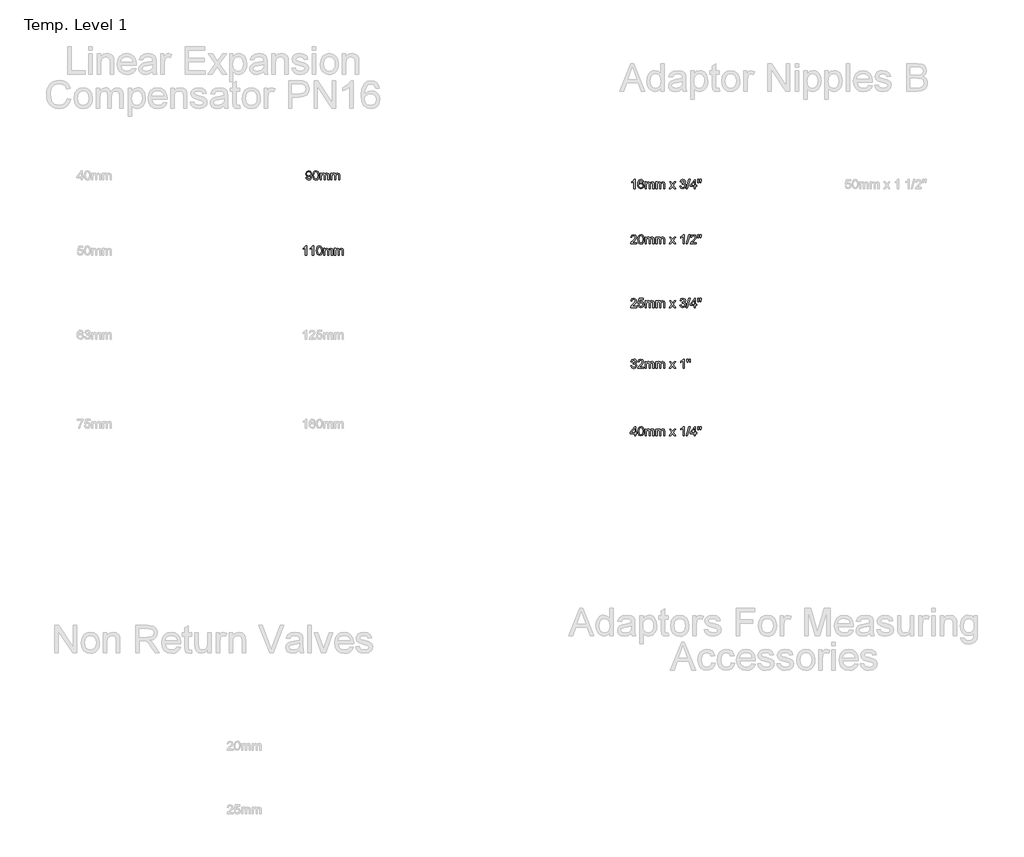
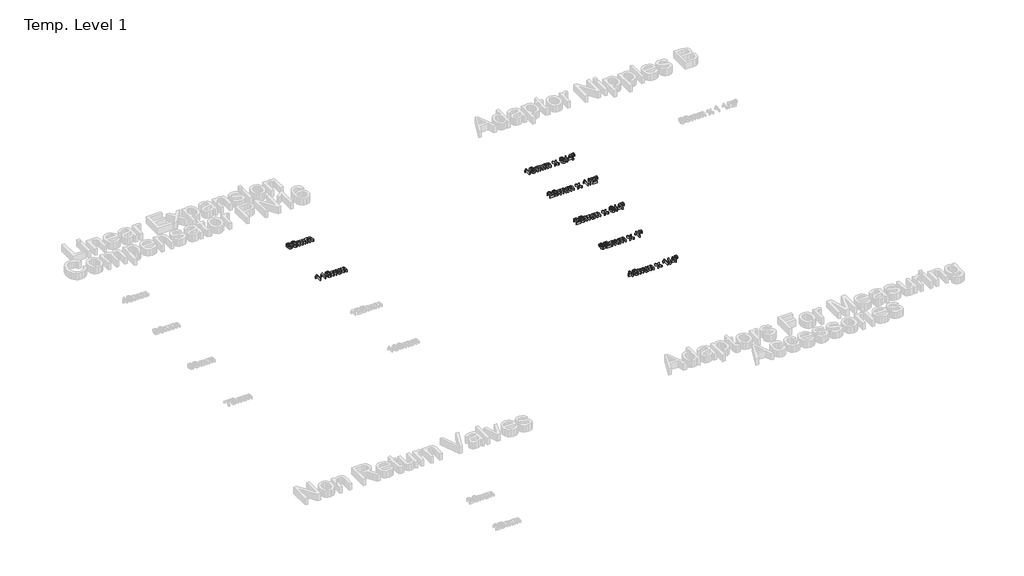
# One storey, part 58 of 62: 7 proxies.
"""IFC4 building model written with IfcOpenShell, lengths in millimetres."""

from ifc_helpers import new_model, si_unit, origin, origin_with_axes, place, context, project, spatial, polyline, outline, extrude, element, save

model = new_model("IFC4")

# Units and contexts
model_context = context("Model", 3, world=origin())
ifc_project = project(units=[si_unit("LENGTHUNIT", "METRE", prefix="MILLI")], contexts=[model_context])

# Site, building, storey
site = spatial("IfcSite", under=ifc_project)
building = spatial("IfcBuilding", under=site)
storey = spatial("IfcBuildingStorey", under=building, Name="Temp. Level 1", Elevation=0.0)

# Proxies
placement = place(None, origin())
element("IfcBuildingElementProxy", 1, Name="50mm Arial", ObjectType="50mm Arial", at=placement, inside=storey, context=model_context, shape_type="SweptSolid", body=[
    extrude(outline(polyline([(15916.0938247, 1468.2449204), (15922.2476708, 1469.0141512), (15925.0120939, 1463.1427569), (15930.2524785, 1461.3218435), (15935.2344497, 1462.4937185), (15938.6118535, 1465.6247281), (15940.6250747, 1470.9732858), (15941.5144977, 1478.1127089), (15936.5565651, 1474.6511704), (15929.807767, 1472.860305), (15919.5253151, 1477.235305), (15915.3245939, 1488.7617473), (15919.729642, 1500.6607858), (15930.7693054, 1505.1679973), (15939.5373343, 1502.5958819), (15945.5709881, 1495.2641512), (15947.6322862, 1481.4901127), (15945.5769977, 1466.5441992), (15939.4652189, 1458.0766512), (15929.964017, 1455.1679973), (15920.5048824, 1458.5994877), (15916.0938247, 1468.2449204)]), holes=[polyline([(15941.4784401, 1488.9059781), (15938.8221901, 1496.2857858), (15931.7669016, 1499.0141512), (15924.3630554, 1496.0754492), (15921.4784401, 1488.4612665), (15924.2068054, 1481.6403531), (15931.5986324, 1479.0141512), (15938.6959881, 1481.6403531), (15941.4784401, 1488.9059781)])]), origin_with_axes(), (0.0, 0.0, 1.0), 15.0),
    extrude(outline(polyline([(15953.0169016, 1480.1559781), (15954.8257958, 1494.3206415), (15960.198392, 1502.4877089), (15969.1707477, 1505.1679973), (15976.3582477, 1503.5814589), (15981.3221901, 1499.0081415), (15984.2068054, 1491.7244877), (15985.3245939, 1480.1559781), (15983.5337285, 1466.0514108), (15978.1791612, 1457.8663146), (15969.1707477, 1455.1679973), (15957.9207477, 1459.8554973), (15954.2428631, 1468.1818194), (15953.0169016, 1480.1559781)]), holes=[polyline([(15959.1707477, 1480.1679973), (15962.0553631, 1464.8855454), (15969.1707477, 1461.3218435), (15976.2861324, 1464.8975646), (15979.1707477, 1480.1679973), (15976.3822862, 1495.2761704), (15969.0986324, 1499.0141512), (15962.151517, 1495.7208819), (15959.1707477, 1480.1679973)])]), origin_with_axes(), (0.0, 0.0, 1.0), 15.0),
    extrude(outline(polyline([(15992.2476708, 1455.9372281), (15992.2476708, 1492.0910742), (15998.401517, 1492.0910742), (15998.401517, 1486.141555), (16002.6322862, 1491.0153531), (16008.6539208, 1492.860305), (16014.8197862, 1490.9792954), (16018.2092093, 1485.7088627), (16023.010892, 1491.0724444), (16029.0745939, 1492.860305), (16037.1214689, 1489.8855454), (16039.9399785, 1480.7208819), (16039.9399785, 1455.9372281), (16033.7861324, 1455.9372281), (16033.7861324, 1478.0766512), (16033.2152189, 1483.2148723), (16031.1479112, 1485.7449204), (16027.6322862, 1486.7064589), (16021.5806035, 1484.2425165), (16019.1707477, 1476.3458819), (16019.1707477, 1455.9372281), (16013.0169016, 1455.9372281), (16013.0169016, 1478.7617473), (16011.5926227, 1484.7232858), (16006.9231516, 1486.7064589), (16002.3678631, 1485.3843435), (15999.339017, 1481.5141512), (15998.401517, 1474.1704012), (15998.401517, 1455.9372281), (15992.2476708, 1455.9372281)])), origin_with_axes(), (0.0, 0.0, 1.0), 15.0),
    extrude(outline(polyline([(16049.1707477, 1455.9372281), (16049.1707477, 1492.0910742), (16055.3245939, 1492.0910742), (16055.3245939, 1486.141555), (16059.5553631, 1491.0153531), (16065.5769977, 1492.860305), (16071.7428631, 1490.9792954), (16075.1322862, 1485.7088627), (16079.9339689, 1491.0724444), (16085.9976708, 1492.860305), (16094.0445458, 1489.8855454), (16096.8630554, 1480.7208819), (16096.8630554, 1455.9372281), (16090.7092093, 1455.9372281), (16090.7092093, 1478.0766512), (16090.1382958, 1483.2148723), (16088.0709881, 1485.7449204), (16084.5553631, 1486.7064589), (16078.5036804, 1484.2425165), (16076.0938247, 1476.3458819), (16076.0938247, 1455.9372281), (16069.9399785, 1455.9372281), (16069.9399785, 1478.7617473), (16068.5156997, 1484.7232858), (16063.8462285, 1486.7064589), (16059.2909401, 1485.3843435), (16056.2620939, 1481.5141512), (16055.3245939, 1474.1704012), (16055.3245939, 1455.9372281), (16049.1707477, 1455.9372281)])), origin_with_axes(), (0.0, 0.0, 1.0), 15.0),
])
element("IfcBuildingElementProxy", 2, Name="50mm Arial", ObjectType="50mm Arial", at=placement, inside=storey, context=model_context, shape_type="SweptSolid", body=[
    extrude(outline(polyline([(15919.5553631, 1054.801483), (15913.401517, 1054.801483), (15913.401517, 1093.1668676), (15907.5721901, 1089.0142234), (15901.0938247, 1085.9072522), (15901.0938247, 1091.7245599), (15910.1142574, 1097.4817714), (15915.589017, 1104.0322522), (15919.5553631, 1104.0322522), (15919.5553631, 1054.801483)])), origin_with_axes(), (0.0, 0.0, 1.0), 15.0),
    extrude(outline(polyline([(15957.2476708, 1054.801483), (15951.0938247, 1054.801483), (15951.0938247, 1093.1668676), (15945.2644977, 1089.0142234), (15938.7861324, 1085.9072522), (15938.7861324, 1091.7245599), (15947.8065651, 1097.4817714), (15953.2813247, 1104.0322522), (15957.2476708, 1104.0322522), (15957.2476708, 1054.801483)])), origin_with_axes(), (0.0, 0.0, 1.0), 15.0),
    extrude(outline(polyline([(15971.8630554, 1079.020233), (15973.6719497, 1093.1848964), (15979.0445458, 1101.3519638), (15988.0169016, 1104.0322522), (15995.2044016, 1102.4457138), (16000.1683439, 1097.8723964), (16003.0529593, 1090.5887426), (16004.1707477, 1079.020233), (16002.3798824, 1064.9156657), (15997.0253151, 1056.7305695), (15988.0169016, 1054.0322522), (15976.7669016, 1058.7197522), (15973.089017, 1067.0460743), (15971.8630554, 1079.020233)]), holes=[polyline([(15978.0169016, 1079.0322522), (15980.901517, 1063.7498003), (15988.0169016, 1060.1860984), (15995.1322862, 1063.7618195), (15998.0169016, 1079.0322522), (15995.2284401, 1094.1404253), (15987.9447862, 1097.8784061), (15980.9976708, 1094.5851368), (15978.0169016, 1079.0322522)])]), origin_with_axes(), (0.0, 0.0, 1.0), 15.0),
    extrude(outline(polyline([(16011.0938247, 1054.801483), (16011.0938247, 1090.9553291), (16017.2476708, 1090.9553291), (16017.2476708, 1085.0058099), (16021.4784401, 1089.879608), (16027.5000747, 1091.7245599), (16033.6659401, 1089.8435503), (16037.0553631, 1084.5731176), (16041.8570458, 1089.9366993), (16047.9207477, 1091.7245599), (16055.9676227, 1088.7498003), (16058.7861324, 1079.5851368), (16058.7861324, 1054.801483), (16052.6322862, 1054.801483), (16052.6322862, 1076.9409061), (16052.0613727, 1082.0791272), (16049.9940651, 1084.6091753), (16046.4784401, 1085.5707138), (16040.4267574, 1083.1067714), (16038.0169016, 1075.2101368), (16038.0169016, 1054.801483), (16031.8630554, 1054.801483), (16031.8630554, 1077.6260022), (16030.4387766, 1083.5875407), (16025.7693054, 1085.5707138), (16021.214017, 1084.2485984), (16018.1851708, 1080.3784061), (16017.2476708, 1073.0346561), (16017.2476708, 1054.801483), (16011.0938247, 1054.801483)])), origin_with_axes(), (0.0, 0.0, 1.0), 15.0),
    extrude(outline(polyline([(16068.0169016, 1054.801483), (16068.0169016, 1090.9553291), (16074.1707477, 1090.9553291), (16074.1707477, 1085.0058099), (16078.401517, 1089.879608), (16084.4231516, 1091.7245599), (16090.589017, 1089.8435503), (16093.9784401, 1084.5731176), (16098.7801227, 1089.9366993), (16104.8438247, 1091.7245599), (16112.8906997, 1088.7498003), (16115.7092093, 1079.5851368), (16115.7092093, 1054.801483), (16109.5553631, 1054.801483), (16109.5553631, 1076.9409061), (16108.9844497, 1082.0791272), (16106.917142, 1084.6091753), (16103.401517, 1085.5707138), (16097.3498343, 1083.1067714), (16094.9399785, 1075.2101368), (16094.9399785, 1054.801483), (16088.7861324, 1054.801483), (16088.7861324, 1077.6260022), (16087.3618535, 1083.5875407), (16082.6923824, 1085.5707138), (16078.1370939, 1084.2485984), (16075.1082477, 1080.3784061), (16074.1707477, 1073.0346561), (16074.1707477, 1054.801483), (16068.0169016, 1054.801483)])), origin_with_axes(), (0.0, 0.0, 1.0), 15.0),
])
element("IfcBuildingElementProxy", 3, Name="50mm Arial", ObjectType="50mm Arial", at=placement, inside=storey, context=model_context, shape_type="SweptSolid", body=[
    extrude(outline(polyline([(17674.252074, 1409.801483), (17668.0982278, 1409.801483), (17668.0982278, 1448.1668676), (17662.2689009, 1444.0142234), (17655.7905355, 1440.9072522), (17655.7905355, 1446.7245599), (17664.8109682, 1452.4817714), (17670.2857278, 1459.0322522), (17674.252074, 1459.0322522), (17674.252074, 1409.801483)])), origin_with_axes(), (0.0, 0.0, 1.0), 15.0),
    extrude(outline(polyline([(17720.4059201, 1445.9553291), (17714.252074, 1445.1860984), (17711.9203432, 1450.3183099), (17705.7544778, 1452.8784061), (17700.2015932, 1451.3880214), (17696.0008721, 1445.7930695), (17694.252074, 1434.8255214), (17699.6787567, 1439.7353772), (17706.4035163, 1441.3399445), (17716.8602471, 1436.9529253), (17721.1751509, 1425.6187907), (17719.1439009, 1417.1272041), (17713.5549586, 1411.1175888), (17705.4900547, 1409.0322522), (17692.9479874, 1414.5610984), (17689.3106677, 1421.8808099), (17688.0982278, 1432.7822522), (17689.4443817, 1445.0388628), (17693.4828432, 1453.4192714), (17698.9966653, 1457.629007), (17706.1390932, 1459.0322522), (17715.8626509, 1455.5586945), (17720.4059201, 1445.9553291)]), holes=[polyline([(17694.252074, 1425.7149445), (17695.6763528, 1420.3844157), (17699.4624105, 1416.5142234), (17705.0092855, 1415.1860984), (17712.2628913, 1417.9385022), (17715.0213047, 1425.4144638), (17712.298949, 1432.5719157), (17704.7568817, 1435.1860984), (17697.3109682, 1432.5719157), (17694.252074, 1425.7149445)])]), origin_with_axes(), (0.0, 0.0, 1.0), 15.0),
    extrude(outline(polyline([(17728.0982278, 1409.801483), (17728.0982278, 1445.9553291), (17734.252074, 1445.9553291), (17734.252074, 1440.0058099), (17738.4828432, 1444.879608), (17744.5044778, 1446.7245599), (17750.6703432, 1444.8435503), (17754.0597663, 1439.5731176), (17758.861449, 1444.9366993), (17764.9251509, 1446.7245599), (17772.9720259, 1443.7498003), (17775.7905355, 1434.5851368), (17775.7905355, 1409.801483), (17769.6366894, 1409.801483), (17769.6366894, 1431.9409061), (17769.0657759, 1437.0791272), (17766.9984682, 1439.6091753), (17763.4828432, 1440.5707138), (17757.4311605, 1438.1067714), (17755.0213047, 1430.2101368), (17755.0213047, 1409.801483), (17748.8674586, 1409.801483), (17748.8674586, 1432.6260022), (17747.4431797, 1438.5875407), (17742.7737086, 1440.5707138), (17738.2184201, 1439.2485984), (17735.189574, 1435.3784061), (17734.252074, 1428.0346561), (17734.252074, 1409.801483), (17728.0982278, 1409.801483)])), origin_with_axes(), (0.0, 0.0, 1.0), 15.0),
    extrude(outline(polyline([(17785.0213047, 1409.801483), (17785.0213047, 1445.9553291), (17791.1751509, 1445.9553291), (17791.1751509, 1440.0058099), (17795.4059201, 1444.879608), (17801.4275547, 1446.7245599), (17807.5934201, 1444.8435503), (17810.9828432, 1439.5731176), (17815.7845259, 1444.9366993), (17821.8482278, 1446.7245599), (17829.8951028, 1443.7498003), (17832.7136124, 1434.5851368), (17832.7136124, 1409.801483), (17826.5597663, 1409.801483), (17826.5597663, 1431.9409061), (17825.9888528, 1437.0791272), (17823.9215451, 1439.6091753), (17820.4059201, 1440.5707138), (17814.3542374, 1438.1067714), (17811.9443817, 1430.2101368), (17811.9443817, 1409.801483), (17805.7905355, 1409.801483), (17805.7905355, 1432.6260022), (17804.3662567, 1438.5875407), (17799.6967855, 1440.5707138), (17795.1414971, 1439.2485984), (17792.1126509, 1435.3784061), (17791.1751509, 1428.0346561), (17791.1751509, 1409.801483), (17785.0213047, 1409.801483)])), origin_with_axes(), (0.0, 0.0, 1.0), 15.0),
    extrude(outline(polyline([(17857.3289971, 1409.801483), (17870.4780355, 1427.9745599), (17858.0982278, 1445.9553291), (17865.502074, 1445.9553291), (17871.4756317, 1437.301483), (17874.2640932, 1433.2149445), (17876.6799586, 1436.5562907), (17883.4828432, 1445.9553291), (17890.8866894, 1445.9553291), (17877.8818817, 1427.9745599), (17890.4059201, 1409.801483), (17883.002074, 1409.801483), (17875.4660163, 1420.7269638), (17874.0838047, 1422.7221561), (17864.7328432, 1409.801483), (17857.3289971, 1409.801483)])), origin_with_axes(), (0.0, 0.0, 1.0), 15.0),
    extrude(outline(polyline([(17913.4828432, 1422.8784061), (17919.6366894, 1423.6476368), (17923.0321221, 1417.1692714), (17929.3842855, 1415.1860984), (17936.8602471, 1417.9144638), (17939.6366894, 1424.6692714), (17936.8842855, 1431.0334541), (17929.8890932, 1433.551483), (17925.5741894, 1432.8784061), (17926.2592855, 1439.0322522), (17934.2280355, 1440.7269638), (17937.3289971, 1446.1596561), (17935.0814009, 1450.973358), (17929.2881317, 1452.8784061), (17923.4227471, 1450.9553291), (17920.4059201, 1445.1860984), (17914.252074, 1445.9553291), (17919.2881317, 1455.6067714), (17929.0717855, 1459.0322522), (17936.4936605, 1457.3435503), (17941.6859682, 1452.7281657), (17943.4828432, 1446.520233), (17941.7761124, 1440.8471561), (17936.7280355, 1436.7726368), (17943.4347663, 1432.5659061), (17945.7905355, 1424.5610984), (17941.0789971, 1413.551483), (17929.1679394, 1409.0322522), (17918.3746701, 1412.8904253), (17913.4828432, 1422.8784061)])), origin_with_axes(), (0.0, 0.0, 1.0), 15.0),
    extrude(outline(polyline([(17948.0982278, 1409.801483), (17961.9443817, 1459.0322522), (17967.4972663, 1459.0322522), (17953.6511124, 1409.801483), (17948.0982278, 1409.801483)])), origin_with_axes(), (0.0, 0.0, 1.0), 15.0),
    extrude(outline(polyline([(17990.4059201, 1409.801483), (17990.4059201, 1421.3399445), (17968.0982278, 1421.3399445), (17968.0982278, 1427.4937907), (17991.9443817, 1458.2630214), (17996.5597663, 1458.2630214), (17996.5597663, 1427.4937907), (18002.7136124, 1427.4937907), (18002.7136124, 1421.3399445), (17996.5597663, 1421.3399445), (17996.5597663, 1409.801483), (17990.4059201, 1409.801483)]), holes=[polyline([(17990.4059201, 1427.4937907), (17990.4059201, 1446.5082138), (17975.6703432, 1427.4937907), (17990.4059201, 1427.4937907)])]), origin_with_axes(), (0.0, 0.0, 1.0), 15.0),
    extrude(outline(polyline([(18021.8722663, 1441.3399445), (18020.4059201, 1450.8471561), (18020.4059201, 1459.0322522), (18026.5597663, 1459.0322522), (18026.5597663, 1450.8471561), (18025.1174586, 1441.3399445), (18021.8722663, 1441.3399445)])), origin_with_axes(), (0.0, 0.0, 1.0), 15.0),
    extrude(outline(polyline([(18009.6006317, 1441.3399445), (18008.0982278, 1450.8471561), (18008.0982278, 1459.0322522), (18014.252074, 1459.0322522), (18014.252074, 1450.8471561), (18012.9059201, 1441.3399445), (18009.6006317, 1441.3399445)])), origin_with_axes(), (0.0, 0.0, 1.0), 15.0),
])
element("IfcBuildingElementProxy", 4, Name="50mm Arial", ObjectType="50mm Arial", at=placement, inside=storey, context=model_context, shape_type="SweptSolid", body=[
    extrude(outline(polyline([(17682.7136124, 1120.9553291), (17682.7136124, 1114.801483), (17650.4059201, 1114.801483), (17651.0669778, 1119.0442714), (17654.8049586, 1125.5767234), (17662.5092855, 1132.7101368), (17673.1342855, 1142.9625407), (17675.7905355, 1149.9336945), (17673.2845259, 1155.5767234), (17666.7400547, 1157.8784061), (17659.9191413, 1155.6308099), (17657.3289971, 1149.4168676), (17651.1751509, 1150.1860984), (17655.892699, 1160.4865791), (17666.8722663, 1164.0322522), (17677.8878913, 1160.0899445), (17681.9443817, 1150.3062907), (17680.8506317, 1144.4709541), (17677.2148144, 1138.4373003), (17668.3987086, 1130.0058099), (17661.3193817, 1124.0863388), (17658.5429394, 1120.9553291), (17682.7136124, 1120.9553291)])), origin_with_axes(), (0.0, 0.0, 1.0), 15.0),
    extrude(outline(polyline([(17688.8674586, 1139.020233), (17690.6763528, 1153.1848964), (17696.048949, 1161.3519638), (17705.0213047, 1164.0322522), (17712.2088047, 1162.4457138), (17717.1727471, 1157.8723964), (17720.0573624, 1150.5887426), (17721.1751509, 1139.020233), (17719.3842855, 1124.9156657), (17714.0297182, 1116.7305695), (17705.0213047, 1114.0322522), (17693.7713047, 1118.7197522), (17690.0934201, 1127.0460743), (17688.8674586, 1139.020233)]), holes=[polyline([(17695.0213047, 1139.0322522), (17697.9059201, 1123.7498003), (17705.0213047, 1120.1860984), (17712.1366894, 1123.7618195), (17715.0213047, 1139.0322522), (17712.2328432, 1154.1404253), (17704.9491894, 1157.8784061), (17698.002074, 1154.5851368), (17695.0213047, 1139.0322522)])]), origin_with_axes(), (0.0, 0.0, 1.0), 15.0),
    extrude(outline(polyline([(17728.0982278, 1114.801483), (17728.0982278, 1150.9553291), (17734.252074, 1150.9553291), (17734.252074, 1145.0058099), (17738.4828432, 1149.879608), (17744.5044778, 1151.7245599), (17750.6703432, 1149.8435503), (17754.0597663, 1144.5731176), (17758.861449, 1149.9366993), (17764.9251509, 1151.7245599), (17772.9720259, 1148.7498003), (17775.7905355, 1139.5851368), (17775.7905355, 1114.801483), (17769.6366894, 1114.801483), (17769.6366894, 1136.9409061), (17769.0657759, 1142.0791272), (17766.9984682, 1144.6091753), (17763.4828432, 1145.5707138), (17757.4311605, 1143.1067714), (17755.0213047, 1135.2101368), (17755.0213047, 1114.801483), (17748.8674586, 1114.801483), (17748.8674586, 1137.6260022), (17747.4431797, 1143.5875407), (17742.7737086, 1145.5707138), (17738.2184201, 1144.2485984), (17735.189574, 1140.3784061), (17734.252074, 1133.0346561), (17734.252074, 1114.801483), (17728.0982278, 1114.801483)])), origin_with_axes(), (0.0, 0.0, 1.0), 15.0),
    extrude(outline(polyline([(17785.0213047, 1114.801483), (17785.0213047, 1150.9553291), (17791.1751509, 1150.9553291), (17791.1751509, 1145.0058099), (17795.4059201, 1149.879608), (17801.4275547, 1151.7245599), (17807.5934201, 1149.8435503), (17810.9828432, 1144.5731176), (17815.7845259, 1149.9366993), (17821.8482278, 1151.7245599), (17829.8951028, 1148.7498003), (17832.7136124, 1139.5851368), (17832.7136124, 1114.801483), (17826.5597663, 1114.801483), (17826.5597663, 1136.9409061), (17825.9888528, 1142.0791272), (17823.9215451, 1144.6091753), (17820.4059201, 1145.5707138), (17814.3542374, 1143.1067714), (17811.9443817, 1135.2101368), (17811.9443817, 1114.801483), (17805.7905355, 1114.801483), (17805.7905355, 1137.6260022), (17804.3662567, 1143.5875407), (17799.6967855, 1145.5707138), (17795.1414971, 1144.2485984), (17792.1126509, 1140.3784061), (17791.1751509, 1133.0346561), (17791.1751509, 1114.801483), (17785.0213047, 1114.801483)])), origin_with_axes(), (0.0, 0.0, 1.0), 15.0),
    extrude(outline(polyline([(17857.3289971, 1114.801483), (17870.4780355, 1132.9745599), (17858.0982278, 1150.9553291), (17865.502074, 1150.9553291), (17871.4756317, 1142.301483), (17874.2640932, 1138.2149445), (17876.6799586, 1141.5562907), (17883.4828432, 1150.9553291), (17890.8866894, 1150.9553291), (17877.8818817, 1132.9745599), (17890.4059201, 1114.801483), (17883.002074, 1114.801483), (17875.4660163, 1125.7269638), (17874.0838047, 1127.7221561), (17864.7328432, 1114.801483), (17857.3289971, 1114.801483)])), origin_with_axes(), (0.0, 0.0, 1.0), 15.0),
    extrude(outline(polyline([(17936.5597663, 1114.801483), (17930.4059201, 1114.801483), (17930.4059201, 1153.1668676), (17924.5765932, 1149.0142234), (17918.0982278, 1145.9072522), (17918.0982278, 1151.7245599), (17927.1186605, 1157.4817714), (17932.5934201, 1164.0322522), (17936.5597663, 1164.0322522), (17936.5597663, 1114.801483)])), origin_with_axes(), (0.0, 0.0, 1.0), 15.0),
    extrude(outline(polyline([(17948.0982278, 1114.801483), (17961.9443817, 1164.0322522), (17967.4972663, 1164.0322522), (17953.6511124, 1114.801483), (17948.0982278, 1114.801483)])), origin_with_axes(), (0.0, 0.0, 1.0), 15.0),
    extrude(outline(polyline([(18001.9443817, 1120.9553291), (18001.9443817, 1114.801483), (17969.6366894, 1114.801483), (17970.2977471, 1119.0442714), (17974.0357278, 1125.5767234), (17981.7400547, 1132.7101368), (17992.3650547, 1142.9625407), (17995.0213047, 1149.9336945), (17992.5152951, 1155.5767234), (17985.970824, 1157.8784061), (17979.1499105, 1155.6308099), (17976.5597663, 1149.4168676), (17970.4059201, 1150.1860984), (17975.1234682, 1160.4865791), (17986.1030355, 1164.0322522), (17997.1186605, 1160.0899445), (18001.1751509, 1150.3062907), (18000.0814009, 1144.4709541), (17996.4455836, 1138.4373003), (17987.6294778, 1130.0058099), (17980.5501509, 1124.0863388), (17977.7737086, 1120.9553291), (18001.9443817, 1120.9553291)])), origin_with_axes(), (0.0, 0.0, 1.0), 15.0),
    extrude(outline(polyline([(18021.8722663, 1146.3399445), (18020.4059201, 1155.8471561), (18020.4059201, 1164.0322522), (18026.5597663, 1164.0322522), (18026.5597663, 1155.8471561), (18025.1174586, 1146.3399445), (18021.8722663, 1146.3399445)])), origin_with_axes(), (0.0, 0.0, 1.0), 15.0),
    extrude(outline(polyline([(18009.6006317, 1146.3399445), (18008.0982278, 1155.8471561), (18008.0982278, 1164.0322522), (18014.252074, 1164.0322522), (18014.252074, 1155.8471561), (18012.9059201, 1146.3399445), (18009.6006317, 1146.3399445)])), origin_with_axes(), (0.0, 0.0, 1.0), 15.0),
])
element("IfcBuildingElementProxy", 5, Name="50mm Arial", ObjectType="50mm Arial", at=placement, inside=storey, context=model_context, shape_type="SweptSolid", body=[
    extrude(outline(polyline([(17682.7136124, 780.9553291), (17682.7136124, 774.801483), (17650.4059201, 774.801483), (17651.0669778, 779.0442714), (17654.8049586, 785.5767234), (17662.5092855, 792.7101368), (17673.1342855, 802.9625407), (17675.7905355, 809.9336945), (17673.2845259, 815.5767234), (17666.7400547, 817.8784061), (17659.9191413, 815.6308099), (17657.3289971, 809.4168676), (17651.1751509, 810.1860984), (17655.892699, 820.4865791), (17666.8722663, 824.0322522), (17677.8878913, 820.0899445), (17681.9443817, 810.3062907), (17680.8506317, 804.4709541), (17677.2148144, 798.4373003), (17668.3987086, 790.0058099), (17661.3193817, 784.0863388), (17658.5429394, 780.9553291), (17682.7136124, 780.9553291)])), origin_with_axes(), (0.0, 0.0, 1.0), 15.0),
    extrude(outline(polyline([(17688.8674586, 787.8784061), (17695.0213047, 788.6476368), (17698.1222663, 782.3074926), (17704.5525547, 780.1860984), (17712.2689009, 783.1368195), (17715.0213047, 790.9673484), (17712.4431797, 798.2750407), (17704.6487086, 800.9553291), (17699.2460644, 799.8856176), (17695.7905355, 797.1091753), (17689.6366894, 797.8784061), (17695.0213047, 823.2630214), (17718.8674586, 823.2630214), (17718.8674586, 817.1091753), (17699.9972663, 817.1091753), (17697.3650547, 803.551483), (17706.3674586, 807.1091753), (17716.8902951, 802.6981176), (17721.1751509, 791.3519638), (17717.3169778, 779.9336945), (17711.7761124, 775.5076128), (17704.5285163, 774.0322522), (17693.6691413, 777.8243195), (17688.8674586, 787.8784061)])), origin_with_axes(), (0.0, 0.0, 1.0), 15.0),
    extrude(outline(polyline([(17728.0982278, 774.801483), (17728.0982278, 810.9553291), (17734.252074, 810.9553291), (17734.252074, 805.0058099), (17738.4828432, 809.879608), (17744.5044778, 811.7245599), (17750.6703432, 809.8435503), (17754.0597663, 804.5731176), (17758.861449, 809.9366993), (17764.9251509, 811.7245599), (17772.9720259, 808.7498003), (17775.7905355, 799.5851368), (17775.7905355, 774.801483), (17769.6366894, 774.801483), (17769.6366894, 796.9409061), (17769.0657759, 802.0791272), (17766.9984682, 804.6091753), (17763.4828432, 805.5707138), (17757.4311605, 803.1067714), (17755.0213047, 795.2101368), (17755.0213047, 774.801483), (17748.8674586, 774.801483), (17748.8674586, 797.6260022), (17747.4431797, 803.5875407), (17742.7737086, 805.5707138), (17738.2184201, 804.2485984), (17735.189574, 800.3784061), (17734.252074, 793.0346561), (17734.252074, 774.801483), (17728.0982278, 774.801483)])), origin_with_axes(), (0.0, 0.0, 1.0), 15.0),
    extrude(outline(polyline([(17785.0213047, 774.801483), (17785.0213047, 810.9553291), (17791.1751509, 810.9553291), (17791.1751509, 805.0058099), (17795.4059201, 809.879608), (17801.4275547, 811.7245599), (17807.5934201, 809.8435503), (17810.9828432, 804.5731176), (17815.7845259, 809.9366993), (17821.8482278, 811.7245599), (17829.8951028, 808.7498003), (17832.7136124, 799.5851368), (17832.7136124, 774.801483), (17826.5597663, 774.801483), (17826.5597663, 796.9409061), (17825.9888528, 802.0791272), (17823.9215451, 804.6091753), (17820.4059201, 805.5707138), (17814.3542374, 803.1067714), (17811.9443817, 795.2101368), (17811.9443817, 774.801483), (17805.7905355, 774.801483), (17805.7905355, 797.6260022), (17804.3662567, 803.5875407), (17799.6967855, 805.5707138), (17795.1414971, 804.2485984), (17792.1126509, 800.3784061), (17791.1751509, 793.0346561), (17791.1751509, 774.801483), (17785.0213047, 774.801483)])), origin_with_axes(), (0.0, 0.0, 1.0), 15.0),
    extrude(outline(polyline([(17857.3289971, 774.801483), (17870.4780355, 792.9745599), (17858.0982278, 810.9553291), (17865.502074, 810.9553291), (17871.4756317, 802.301483), (17874.2640932, 798.2149445), (17876.6799586, 801.5562907), (17883.4828432, 810.9553291), (17890.8866894, 810.9553291), (17877.8818817, 792.9745599), (17890.4059201, 774.801483), (17883.002074, 774.801483), (17875.4660163, 785.7269638), (17874.0838047, 787.7221561), (17864.7328432, 774.801483), (17857.3289971, 774.801483)])), origin_with_axes(), (0.0, 0.0, 1.0), 15.0),
    extrude(outline(polyline([(17913.4828432, 787.8784061), (17919.6366894, 788.6476368), (17923.0321221, 782.1692714), (17929.3842855, 780.1860984), (17936.8602471, 782.9144638), (17939.6366894, 789.6692714), (17936.8842855, 796.0334541), (17929.8890932, 798.551483), (17925.5741894, 797.8784061), (17926.2592855, 804.0322522), (17934.2280355, 805.7269638), (17937.3289971, 811.1596561), (17935.0814009, 815.973358), (17929.2881317, 817.8784061), (17923.4227471, 815.9553291), (17920.4059201, 810.1860984), (17914.252074, 810.9553291), (17919.2881317, 820.6067714), (17929.0717855, 824.0322522), (17936.4936605, 822.3435503), (17941.6859682, 817.7281657), (17943.4828432, 811.520233), (17941.7761124, 805.8471561), (17936.7280355, 801.7726368), (17943.4347663, 797.5659061), (17945.7905355, 789.5610984), (17941.0789971, 778.551483), (17929.1679394, 774.0322522), (17918.3746701, 777.8904253), (17913.4828432, 787.8784061)])), origin_with_axes(), (0.0, 0.0, 1.0), 15.0),
    extrude(outline(polyline([(17948.0982278, 774.801483), (17961.9443817, 824.0322522), (17967.4972663, 824.0322522), (17953.6511124, 774.801483), (17948.0982278, 774.801483)])), origin_with_axes(), (0.0, 0.0, 1.0), 15.0),
    extrude(outline(polyline([(17990.4059201, 774.801483), (17990.4059201, 786.3399445), (17968.0982278, 786.3399445), (17968.0982278, 792.4937907), (17991.9443817, 823.2630214), (17996.5597663, 823.2630214), (17996.5597663, 792.4937907), (18002.7136124, 792.4937907), (18002.7136124, 786.3399445), (17996.5597663, 786.3399445), (17996.5597663, 774.801483), (17990.4059201, 774.801483)]), holes=[polyline([(17990.4059201, 792.4937907), (17990.4059201, 811.5082138), (17975.6703432, 792.4937907), (17990.4059201, 792.4937907)])]), origin_with_axes(), (0.0, 0.0, 1.0), 15.0),
    extrude(outline(polyline([(18021.8722663, 806.3399445), (18020.4059201, 815.8471561), (18020.4059201, 824.0322522), (18026.5597663, 824.0322522), (18026.5597663, 815.8471561), (18025.1174586, 806.3399445), (18021.8722663, 806.3399445)])), origin_with_axes(), (0.0, 0.0, 1.0), 15.0),
    extrude(outline(polyline([(18009.6006317, 806.3399445), (18008.0982278, 815.8471561), (18008.0982278, 824.0322522), (18014.252074, 824.0322522), (18014.252074, 815.8471561), (18012.9059201, 806.3399445), (18009.6006317, 806.3399445)])), origin_with_axes(), (0.0, 0.0, 1.0), 15.0),
])
element("IfcBuildingElementProxy", 6, Name="50mm Arial", ObjectType="50mm Arial", at=placement, inside=storey, context=model_context, shape_type="SweptSolid", body=[
    extrude(outline(polyline([(17651.1751509, 462.8784061), (17657.3289971, 463.6476368), (17660.7244297, 457.1692714), (17667.0765932, 455.1860984), (17674.5525547, 457.9144638), (17677.3289971, 464.6692714), (17674.5765932, 471.0334541), (17667.5814009, 473.551483), (17663.2664971, 472.8784061), (17663.9515932, 479.0322522), (17671.9203432, 480.7269638), (17675.0213047, 486.1596561), (17672.7737086, 490.973358), (17666.9804394, 492.8784061), (17661.1150547, 490.9553291), (17658.0982278, 485.1860984), (17651.9443817, 485.9553291), (17656.9804394, 495.6067714), (17666.7640932, 499.0322522), (17674.1859682, 497.3435503), (17679.3782759, 492.7281657), (17681.1751509, 486.520233), (17679.4684201, 480.8471561), (17674.4203432, 476.7726368), (17681.127074, 472.5659061), (17683.4828432, 464.5610984), (17678.7713047, 453.551483), (17666.8602471, 449.0322522), (17656.0669778, 452.8904253), (17651.1751509, 462.8784061)])), origin_with_axes(), (0.0, 0.0, 1.0), 15.0),
    extrude(outline(polyline([(17720.4059201, 455.9553291), (17720.4059201, 449.801483), (17688.0982278, 449.801483), (17688.7592855, 454.0442714), (17692.4972663, 460.5767234), (17700.2015932, 467.7101368), (17710.8265932, 477.9625407), (17713.4828432, 484.9336945), (17710.9768336, 490.5767234), (17704.4323624, 492.8784061), (17697.611449, 490.6308099), (17695.0213047, 484.4168676), (17688.8674586, 485.1860984), (17693.5850067, 495.4865791), (17704.564574, 499.0322522), (17715.580199, 495.0899445), (17719.6366894, 485.3062907), (17718.5429394, 479.4709541), (17714.9071221, 473.4373003), (17706.0910163, 465.0058099), (17699.0116894, 459.0863388), (17696.2352471, 455.9553291), (17720.4059201, 455.9553291)])), origin_with_axes(), (0.0, 0.0, 1.0), 15.0),
    extrude(outline(polyline([(17728.0982278, 449.801483), (17728.0982278, 485.9553291), (17734.252074, 485.9553291), (17734.252074, 480.0058099), (17738.4828432, 484.879608), (17744.5044778, 486.7245599), (17750.6703432, 484.8435503), (17754.0597663, 479.5731176), (17758.861449, 484.9366993), (17764.9251509, 486.7245599), (17772.9720259, 483.7498003), (17775.7905355, 474.5851368), (17775.7905355, 449.801483), (17769.6366894, 449.801483), (17769.6366894, 471.9409061), (17769.0657759, 477.0791272), (17766.9984682, 479.6091753), (17763.4828432, 480.5707138), (17757.4311605, 478.1067714), (17755.0213047, 470.2101368), (17755.0213047, 449.801483), (17748.8674586, 449.801483), (17748.8674586, 472.6260022), (17747.4431797, 478.5875407), (17742.7737086, 480.5707138), (17738.2184201, 479.2485984), (17735.189574, 475.3784061), (17734.252074, 468.0346561), (17734.252074, 449.801483), (17728.0982278, 449.801483)])), origin_with_axes(), (0.0, 0.0, 1.0), 15.0),
    extrude(outline(polyline([(17785.0213047, 449.801483), (17785.0213047, 485.9553291), (17791.1751509, 485.9553291), (17791.1751509, 480.0058099), (17795.4059201, 484.879608), (17801.4275547, 486.7245599), (17807.5934201, 484.8435503), (17810.9828432, 479.5731176), (17815.7845259, 484.9366993), (17821.8482278, 486.7245599), (17829.8951028, 483.7498003), (17832.7136124, 474.5851368), (17832.7136124, 449.801483), (17826.5597663, 449.801483), (17826.5597663, 471.9409061), (17825.9888528, 477.0791272), (17823.9215451, 479.6091753), (17820.4059201, 480.5707138), (17814.3542374, 478.1067714), (17811.9443817, 470.2101368), (17811.9443817, 449.801483), (17805.7905355, 449.801483), (17805.7905355, 472.6260022), (17804.3662567, 478.5875407), (17799.6967855, 480.5707138), (17795.1414971, 479.2485984), (17792.1126509, 475.3784061), (17791.1751509, 468.0346561), (17791.1751509, 449.801483), (17785.0213047, 449.801483)])), origin_with_axes(), (0.0, 0.0, 1.0), 15.0),
    extrude(outline(polyline([(17857.3289971, 449.801483), (17870.4780355, 467.9745599), (17858.0982278, 485.9553291), (17865.502074, 485.9553291), (17871.4756317, 477.301483), (17874.2640932, 473.2149445), (17876.6799586, 476.5562907), (17883.4828432, 485.9553291), (17890.8866894, 485.9553291), (17877.8818817, 467.9745599), (17890.4059201, 449.801483), (17883.002074, 449.801483), (17875.4660163, 460.7269638), (17874.0838047, 462.7221561), (17864.7328432, 449.801483), (17857.3289971, 449.801483)])), origin_with_axes(), (0.0, 0.0, 1.0), 15.0),
    extrude(outline(polyline([(17936.5597663, 449.801483), (17930.4059201, 449.801483), (17930.4059201, 488.1668676), (17924.5765932, 484.0142234), (17918.0982278, 480.9072522), (17918.0982278, 486.7245599), (17927.1186605, 492.4817714), (17932.5934201, 499.0322522), (17936.5597663, 499.0322522), (17936.5597663, 449.801483)])), origin_with_axes(), (0.0, 0.0, 1.0), 15.0),
    extrude(outline(polyline([(17952.6775547, 481.3399445), (17951.1751509, 490.8471561), (17951.1751509, 499.0322522), (17957.3289971, 499.0322522), (17957.3289971, 490.8471561), (17955.9828432, 481.3399445), (17952.6775547, 481.3399445)])), origin_with_axes(), (0.0, 0.0, 1.0), 15.0),
    extrude(outline(polyline([(17964.9491894, 481.3399445), (17963.4828432, 490.8471561), (17963.4828432, 499.0322522), (17969.6366894, 499.0322522), (17969.6366894, 490.8471561), (17968.1943817, 481.3399445), (17964.9491894, 481.3399445)])), origin_with_axes(), (0.0, 0.0, 1.0), 15.0),
])
element("IfcBuildingElementProxy", 7, Name="50mm Arial", ObjectType="50mm Arial", at=placement, inside=storey, context=model_context, shape_type="SweptSolid", body=[
    extrude(outline(polyline([(17671.1751509, 89.801483), (17671.1751509, 101.3399445), (17648.8674586, 101.3399445), (17648.8674586, 107.4937907), (17672.7136124, 138.2630214), (17677.3289971, 138.2630214), (17677.3289971, 107.4937907), (17683.4828432, 107.4937907), (17683.4828432, 101.3399445), (17677.3289971, 101.3399445), (17677.3289971, 89.801483), (17671.1751509, 89.801483)]), holes=[polyline([(17671.1751509, 107.4937907), (17671.1751509, 126.5082138), (17656.439574, 107.4937907), (17671.1751509, 107.4937907)])]), origin_with_axes(), (0.0, 0.0, 1.0), 15.0),
    extrude(outline(polyline([(17688.8674586, 114.020233), (17690.6763528, 128.1848964), (17696.048949, 136.3519638), (17705.0213047, 139.0322522), (17712.2088047, 137.4457138), (17717.1727471, 132.8723964), (17720.0573624, 125.5887426), (17721.1751509, 114.020233), (17719.3842855, 99.9156657), (17714.0297182, 91.7305695), (17705.0213047, 89.0322522), (17693.7713047, 93.7197522), (17690.0934201, 102.0460743), (17688.8674586, 114.020233)]), holes=[polyline([(17695.0213047, 114.0322522), (17697.9059201, 98.7498003), (17705.0213047, 95.1860984), (17712.1366894, 98.7618195), (17715.0213047, 114.0322522), (17712.2328432, 129.1404253), (17704.9491894, 132.8784061), (17698.002074, 129.5851368), (17695.0213047, 114.0322522)])]), origin_with_axes(), (0.0, 0.0, 1.0), 15.0),
    extrude(outline(polyline([(17728.0982278, 89.801483), (17728.0982278, 125.9553291), (17734.252074, 125.9553291), (17734.252074, 120.0058099), (17738.4828432, 124.879608), (17744.5044778, 126.7245599), (17750.6703432, 124.8435503), (17754.0597663, 119.5731176), (17758.861449, 124.9366993), (17764.9251509, 126.7245599), (17772.9720259, 123.7498003), (17775.7905355, 114.5851368), (17775.7905355, 89.801483), (17769.6366894, 89.801483), (17769.6366894, 111.9409061), (17769.0657759, 117.0791272), (17766.9984682, 119.6091753), (17763.4828432, 120.5707138), (17757.4311605, 118.1067714), (17755.0213047, 110.2101368), (17755.0213047, 89.801483), (17748.8674586, 89.801483), (17748.8674586, 112.6260022), (17747.4431797, 118.5875407), (17742.7737086, 120.5707138), (17738.2184201, 119.2485984), (17735.189574, 115.3784061), (17734.252074, 108.0346561), (17734.252074, 89.801483), (17728.0982278, 89.801483)])), origin_with_axes(), (0.0, 0.0, 1.0), 15.0),
    extrude(outline(polyline([(17785.0213047, 89.801483), (17785.0213047, 125.9553291), (17791.1751509, 125.9553291), (17791.1751509, 120.0058099), (17795.4059201, 124.879608), (17801.4275547, 126.7245599), (17807.5934201, 124.8435503), (17810.9828432, 119.5731176), (17815.7845259, 124.9366993), (17821.8482278, 126.7245599), (17829.8951028, 123.7498003), (17832.7136124, 114.5851368), (17832.7136124, 89.801483), (17826.5597663, 89.801483), (17826.5597663, 111.9409061), (17825.9888528, 117.0791272), (17823.9215451, 119.6091753), (17820.4059201, 120.5707138), (17814.3542374, 118.1067714), (17811.9443817, 110.2101368), (17811.9443817, 89.801483), (17805.7905355, 89.801483), (17805.7905355, 112.6260022), (17804.3662567, 118.5875407), (17799.6967855, 120.5707138), (17795.1414971, 119.2485984), (17792.1126509, 115.3784061), (17791.1751509, 108.0346561), (17791.1751509, 89.801483), (17785.0213047, 89.801483)])), origin_with_axes(), (0.0, 0.0, 1.0), 15.0),
    extrude(outline(polyline([(17857.3289971, 89.801483), (17870.4780355, 107.9745599), (17858.0982278, 125.9553291), (17865.502074, 125.9553291), (17871.4756317, 117.301483), (17874.2640932, 113.2149445), (17876.6799586, 116.5562907), (17883.4828432, 125.9553291), (17890.8866894, 125.9553291), (17877.8818817, 107.9745599), (17890.4059201, 89.801483), (17883.002074, 89.801483), (17875.4660163, 100.7269638), (17874.0838047, 102.7221561), (17864.7328432, 89.801483), (17857.3289971, 89.801483)])), origin_with_axes(), (0.0, 0.0, 1.0), 15.0),
    extrude(outline(polyline([(17936.5597663, 89.801483), (17930.4059201, 89.801483), (17930.4059201, 128.1668676), (17924.5765932, 124.0142234), (17918.0982278, 120.9072522), (17918.0982278, 126.7245599), (17927.1186605, 132.4817714), (17932.5934201, 139.0322522), (17936.5597663, 139.0322522), (17936.5597663, 89.801483)])), origin_with_axes(), (0.0, 0.0, 1.0), 15.0),
    extrude(outline(polyline([(17948.0982278, 89.801483), (17961.9443817, 139.0322522), (17967.4972663, 139.0322522), (17953.6511124, 89.801483), (17948.0982278, 89.801483)])), origin_with_axes(), (0.0, 0.0, 1.0), 15.0),
    extrude(outline(polyline([(17990.4059201, 89.801483), (17990.4059201, 101.3399445), (17968.0982278, 101.3399445), (17968.0982278, 107.4937907), (17991.9443817, 138.2630214), (17996.5597663, 138.2630214), (17996.5597663, 107.4937907), (18002.7136124, 107.4937907), (18002.7136124, 101.3399445), (17996.5597663, 101.3399445), (17996.5597663, 89.801483), (17990.4059201, 89.801483)]), holes=[polyline([(17990.4059201, 107.4937907), (17990.4059201, 126.5082138), (17975.6703432, 107.4937907), (17990.4059201, 107.4937907)])]), origin_with_axes(), (0.0, 0.0, 1.0), 15.0),
    extrude(outline(polyline([(18021.8722663, 121.3399445), (18020.4059201, 130.8471561), (18020.4059201, 139.0322522), (18026.5597663, 139.0322522), (18026.5597663, 130.8471561), (18025.1174586, 121.3399445), (18021.8722663, 121.3399445)])), origin_with_axes(), (0.0, 0.0, 1.0), 15.0),
    extrude(outline(polyline([(18009.6006317, 121.3399445), (18008.0982278, 130.8471561), (18008.0982278, 139.0322522), (18014.252074, 139.0322522), (18014.252074, 130.8471561), (18012.9059201, 121.3399445), (18009.6006317, 121.3399445)])), origin_with_axes(), (0.0, 0.0, 1.0), 15.0),
])

save(model, "model.ifc")
